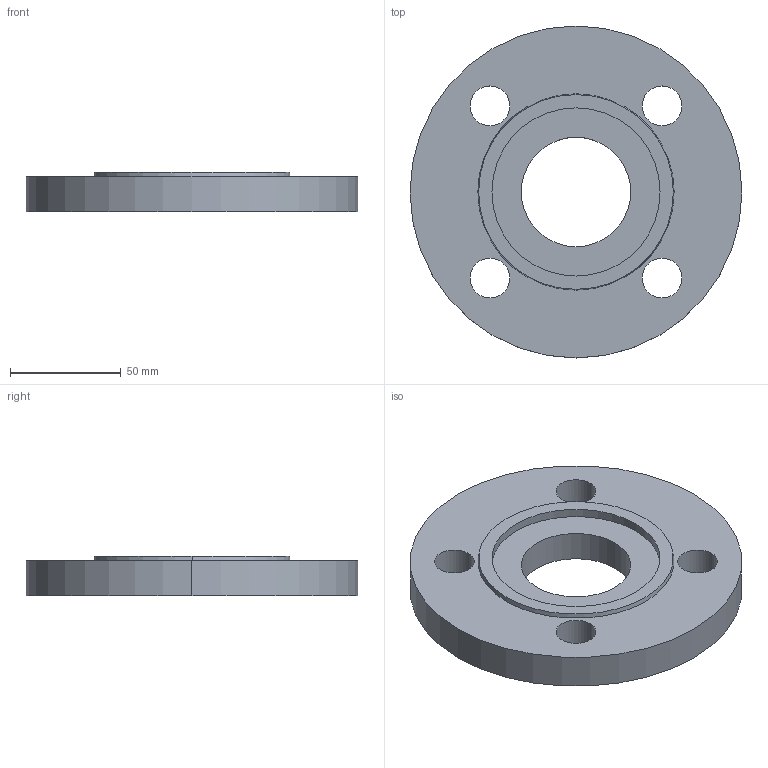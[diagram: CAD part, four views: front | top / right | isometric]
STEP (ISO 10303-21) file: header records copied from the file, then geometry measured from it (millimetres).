
FILE_DESCRIPTION (( 'STEP AP214' ), '1' );
FILE_NAME ('PN40 DN40 Type 01 - Type F Face.STEP', '2018-12-30T02:32:35', ( '' ), ( '' ), 'SwSTEP 2.0', 'SolidWorks 2019', '' );
FILE_SCHEMA (( 'AUTOMOTIVE_DESIGN' ));
Length unit declared in the file: millimetre
Products named in the file (1): PN40 DN40 Type 01 - Type F Face
Bounding box: 150 x 150 x 18 mm (x, y, z)
Volume: 233631.6 mm3; surface area: 44215.2 mm2
Topology: 1 solids, 1 shells, 20 faces, 48 edges, 32 vertices
Faces by surface type: cylinder 14, plane 4, cone 2
Entity records: 658 total; most frequent: DIRECTION 122, CARTESIAN_POINT 101, ORIENTED_EDGE 96, AXIS2_PLACEMENT_3D 53, EDGE_CURVE 48, CIRCLE 32, VERTEX_POINT 32, EDGE_LOOP 32
